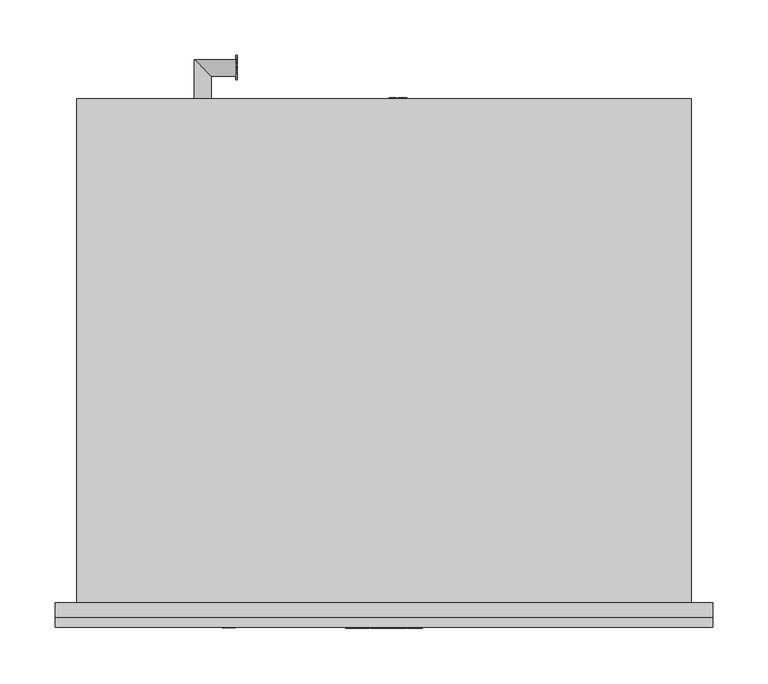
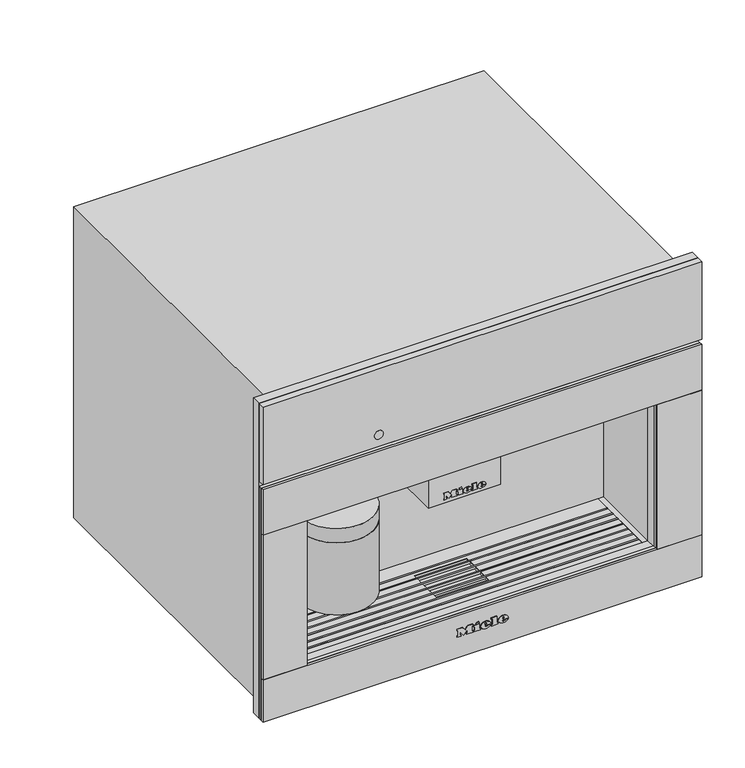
"""IFC4 building model written with IfcOpenShell, lengths in millimetres: proxy geometry, 12384610_CH_CVA7845_OBSWMATT : 29784521_CH_12384610_CVA7845_OBSWMATT."""

from ifc_helpers import new_model, si_unit, point, frame, frame_2d, origin, place, context, project, spatial, polyline, circle_curve, ellipse_curve, trimmed, segment, composite_curve, outline, extrude, faceted_brep, source, transform, mapped, element, save
from ifc_brep_helpers import plane_surface, cylinder_surface, revolved_surface, extruded_surface, advanced_brep


def specialty_equipment_7b8f3ad3(model_context):
    return source(origin(), model_context, "Body", "SolidModel", [
        extrude(outline(composite_curve([segment(trimmed(circle_curve(frame_2d((-14.0, 36.5)), 5.0), [point((-9.0, 36.5))], [point((-19.0, 36.5))], False, "CARTESIAN"), True, "CONTINUOUS"), segment(trimmed(circle_curve(frame_2d((-14.0, 36.5)), 5.0), [point((-19.0, 36.5))], [point((-9.0, 36.5))], False, "CARTESIAN"), True, "CONTINUOUS")], self_intersect=False)), frame((0.0, 0.0, 193.0), z_axis=(0.0, 0.0, 1.0), x_axis=(1.0, 0.0, 0.0)), (0.0, 0.0, 1.0), 5.0),
        extrude(outline(composite_curve([segment(trimmed(circle_curve(frame_2d((14.0, 36.5)), 5.0), [point((19.0, 36.5))], [point((9.0, 36.5))], False, "CARTESIAN"), True, "CONTINUOUS"), segment(trimmed(circle_curve(frame_2d((14.0, 36.5)), 5.0), [point((9.0, 36.5))], [point((19.0, 36.5))], False, "CARTESIAN"), True, "CONTINUOUS")], self_intersect=False)), frame((0.0, 0.0, 193.0), z_axis=(0.0, 0.0, 1.0), x_axis=(1.0, 0.0, 0.0)), (0.0, 0.0, 1.0), 5.0),
        extrude(outline(composite_curve([segment(trimmed(circle_curve(frame_2d((-156.5, 49.5)), 50.0), [point((-106.5, 49.5))], [point((-206.5, 49.5))], False, "CARTESIAN"), True, "CONTINUOUS"), segment(trimmed(circle_curve(frame_2d((-156.5, 49.5)), 50.0), [point((-206.5, 49.5))], [point((-106.5, 49.5))], False, "CARTESIAN"), True, "CONTINUOUS")], self_intersect=False)), frame((0.0, 0.0, 100.0), z_axis=(0.0, 0.0, 1.0), x_axis=(1.0, 0.0, 0.0)), (0.0, 0.0, 1.0), 103.0),
        extrude(outline(polyline([(-49.0, 95.0), (49.0, 95.0), (49.0, 20.0), (-49.0, 20.0), (-49.0, 95.0)])), frame((0.0, 0.0, 198.0), z_axis=(0.0, 0.0, 1.0), x_axis=(1.0, 0.0, 0.0)), (0.0, 0.0, 1.0), 75.0),
        extrude(outline(polyline([(455.5, 297.5), (455.5, -297.5), (4.0, -297.5), (4.0, 297.5), (455.5, 297.5)]), holes=[polyline([(273.0, 237.5), (63.0, 237.5), (63.0, -237.5), (273.0, -237.5), (273.0, 237.5)])]), frame((0.0, -13.0, 0.0), z_axis=(0.0, 1.0, 0.0), x_axis=(0.0, 0.0, 1.0)), (0.0, 0.0, 1.0), 13.0),
        extrude(outline(polyline([(484.5420128, 22.0), (481.8025182, 32.045631), (483.0974628, 32.045631), (484.6867131, 25.4433755), (485.1772224, 23.4053092), (485.7020674, 25.207931), (487.6935352, 32.045631), (489.5599232, 32.045631), (491.0069257, 27.0890343), (492.0835937, 23.4053092), (492.5593878, 25.3845144), (494.1633533, 32.045631), (495.4582979, 32.045631), (492.7163507, 22.0), (491.3748077, 22.0), (488.9664069, 29.7500474), (488.630408, 30.8316204), (488.2527159, 29.5293182), (486.0576866, 22.0), (484.5420128, 22.0)])), frame((-134.0, 0.0, 0.0), z_axis=(1.0, 0.0, 0.0), x_axis=(0.0, 1.0, 0.0)), (0.0, 0.0, 1.0), 1.0),
        extrude(outline(polyline([(473.48348, 22.0), (473.48348, 32.045631), (474.7391839, 32.045631), (474.7391839, 27.128275), (479.8895318, 32.045631), (481.6455552, 32.045631), (477.3217155, 27.9155425), (481.8025182, 22.0), (480.267224, 22.0), (476.4314411, 27.0669613), (474.7391839, 25.4531857), (474.7391839, 22.0), (473.48348, 22.0)])), frame((-134.0, 0.0, 0.0), z_axis=(1.0, 0.0, 0.0), x_axis=(0.0, 1.0, 0.0)), (0.0, 0.0, 1.0), 1.0),
        advanced_brep(
        [(-156.5, 476.5, 27.0), (-171.5, 491.5, 27.0), (-134.0, 491.5, 27.0), (-134.0, 476.5, 27.0), (-156.5, 456.0, 27.0), (-171.5, 456.0, 27.0)],
        [
            (0, 1, ellipse_curve(frame((-164.0, 484.0, 27.0), z_axis=(0.707106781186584, 0.7071067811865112, 0.0), x_axis=(-0.7071067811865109, 0.7071067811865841, 0.0)), 10.6066017, 7.5)),
            (1, 2),
            (2, 3, circle_curve(frame((-134.0, 484.0, 27.0), z_axis=(-1.0, 0.0, 0.0), x_axis=(0.0, 1.0, 0.0)), 7.5)),
            (3, 0),
            (4, 5, circle_curve(frame((-164.0, 456.0, 27.0), z_axis=(0.0, 1.0, 0.0), x_axis=(-1.0, 0.0, 0.0)), 7.5)),
            (5, 1),
            (0, 4),
            (4, 5, circle_curve(frame((-164.0, 456.0, 27.0), z_axis=(0.0, -1.0, 0.0), x_axis=(-1.0, 0.0, 0.0)), 7.5)),
            (0, 1, ellipse_curve(frame((-164.0, 484.0, 27.0), z_axis=(-0.707106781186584, -0.7071067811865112, 0.0), x_axis=(0.7071067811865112, -0.7071067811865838, 0.0)), 10.6066017, 7.5)),
            (2, 3, circle_curve(frame((-134.0, 484.0, 27.0), z_axis=(1.0, 0.0, 0.0), x_axis=(0.0, 1.0, 0.0)), 7.5)),
        ],
        [
            cylinder_surface(frame((-164.0, 484.0, 27.0), z_axis=(-1.0, 0.0, 0.0), x_axis=(0.0, 1.0, 0.0)), 7.5),
            cylinder_surface(frame((-164.0, 456.0, 27.0), z_axis=(0.0, -1.0, 0.0), x_axis=(-1.0, 0.0, 0.0)), 7.5),
            plane_surface(frame((-164.0, 456.0, 27.0), z_axis=(0.0, -1.0, 0.0), x_axis=(0.0, 0.0, 1.0))),
            plane_surface(frame((-134.0, 484.0, 27.0), z_axis=(1.0, 0.0, 0.0), x_axis=(0.0, 0.0, 1.0))),
        ],
        [
            (0, [[1, 2, 3, 4]]),
            (1, [[5, 6, -1, 7]]),
            (2, [[8, -5]]),
            (1, [[-8, -7, 9, -6]]),
            (3, [[-3, 10]]),
            (0, [[-9, -4, -10, -2]]),
        ],
    ),
        extrude(outline(polyline([(97.0, 11.140398), (107.045631, 11.140398), (107.045631, 9.8846941), (98.2557039, 9.8846941), (98.2557039, 4.8618786), (97.0, 4.8618786), (97.0, 11.140398)])), frame((0.0, 456.0, 0.0), z_axis=(0.0, 1.0, 0.0), x_axis=(0.0, 0.0, 1.0)), (0.0, 0.0, 1.0), 1.0),
        extrude(outline(polyline([(97.0, 20.4012141), (107.045631, 20.4012141), (107.045631, 13.1809168), (105.7899271, 13.1809168), (105.7899271, 19.1455102), (102.8076304, 19.1455102), (102.8076304, 13.4948427), (101.5519266, 13.4948427), (101.5519266, 19.1455102), (98.2557039, 19.1455102), (98.2557039, 13.0239538), (97.0, 13.0239538), (97.0, 20.4012141)])), frame((0.0, 456.0, 0.0), z_axis=(0.0, 1.0, 0.0), x_axis=(0.0, 0.0, 1.0)), (0.0, 0.0, 1.0), 1.0),
        advanced_brep(
        [(55.0, 425.5, 102.0), (55.0, 410.5, 102.0), (5.5239538, 410.5, 102.0), (20.5239538, 425.5, 102.0), (20.5239538, 456.0, 102.0), (5.5239538, 456.0, 102.0)],
        [
            (0, 1, circle_curve(frame((55.0, 418.0, 102.0), z_axis=(-1.0, 0.0, 0.0), x_axis=(0.0, -1.0, 0.0)), 7.5)),
            (1, 2),
            (2, 3, ellipse_curve(frame((13.0239538, 418.0, 102.0), z_axis=(0.7071067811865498, -0.7071067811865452, 0.0), x_axis=(0.7071067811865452, 0.7071067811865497, 0.0)), 10.6066017, 7.5)),
            (3, 0),
            (2, 3, ellipse_curve(frame((13.0239538, 418.0, 102.0), z_axis=(-0.7071067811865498, 0.7071067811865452, 0.0), x_axis=(-0.7071067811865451, -0.7071067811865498, 0.0)), 10.6066017, 7.5)),
            (3, 4),
            (4, 5, circle_curve(frame((13.0239538, 456.0, 102.0), z_axis=(0.0, -1.0, 0.0), x_axis=(-1.0, 0.0, 0.0)), 7.5)),
            (5, 2),
            (0, 1, circle_curve(frame((55.0, 418.0, 102.0), z_axis=(1.0, 0.0, 0.0), x_axis=(0.0, -1.0, 0.0)), 7.5)),
            (4, 5, circle_curve(frame((13.0239538, 456.0, 102.0), z_axis=(0.0, 1.0, 0.0), x_axis=(-1.0, 0.0, 0.0)), 7.5)),
        ],
        [
            cylinder_surface(frame((55.0, 418.0, 102.0), z_axis=(1.0, 0.0, 0.0), x_axis=(0.0, -1.0, 0.0)), 7.5),
            cylinder_surface(frame((13.0239538, 418.0, 102.0), z_axis=(0.0, -1.0, 0.0), x_axis=(-1.0, 0.0, 0.0)), 7.5),
            plane_surface(frame((55.0, 418.0, 102.0), z_axis=(1.0, 0.0, 0.0), x_axis=(0.0, 0.0, 1.0))),
            plane_surface(frame((13.0239538, 456.0, 102.0), z_axis=(0.0, 1.0, 0.0), x_axis=(0.0, 0.0, 1.0))),
        ],
        [
            (0, [[1, 2, 3, 4]]),
            (1, [[5, 6, 7, 8]]),
            (2, [[9, -1]]),
            (0, [[-9, -4, -5, -2]]),
            (3, [[10, -7]]),
            (1, [[-3, -8, -10, -6]]),
        ],
    ),
        advanced_brep(
        [(-106.5, 49.5, 203.0), (-206.5, 49.5, 203.0), (-156.5, 49.5, 203.0), (-106.5, 49.5, 223.5), (-206.5, 49.5, 223.5), (-110.0, 49.5, 252.0), (-203.0, 49.5, 252.0), (-110.0, 49.5, 273.0), (-203.0, 49.5, 273.0), (-156.5, 49.5, 273.0)],
        [
            (0, 1, circle_curve(frame((-156.5, 49.5, 203.0), z_axis=(0.0, 0.0, -1.0), x_axis=(-1.0, 0.0, 0.0)), 50.0)),
            (1, 2),
            (2, 0),
            (1, 0, circle_curve(frame((-156.5, 49.5, 203.0), z_axis=(0.0, 0.0, -1.0), x_axis=(-1.0, 0.0, 0.0)), 50.0)),
            (3, 4, circle_curve(frame((-156.5, 49.5, 223.5), z_axis=(0.0, 0.0, -1.0), x_axis=(-1.0, 0.0, 0.0)), 50.0)),
            (4, 1),
            (0, 3),
            (4, 3, circle_curve(frame((-156.5, 49.5, 223.5), z_axis=(0.0, 0.0, -1.0), x_axis=(-1.0, 0.0, 0.0)), 50.0)),
            (5, 6, circle_curve(frame((-156.5, 49.5, 252.0), z_axis=(0.0, 0.0, -1.0), x_axis=(-1.0, 0.0, 0.0)), 46.5)),
            (6, 4, circle_curve(frame((-206.7961166, 49.5, 238.0012775), z_axis=(0.0, 1.0, 0.0), x_axis=(-1.0, 0.0, 0.0)), 14.5043005)),
            (3, 5, circle_curve(frame((-106.2038834, 49.5, 238.0012775), z_axis=(0.0, 1.0, 0.0), x_axis=(1.0, 0.0, 0.0)), 14.5043005)),
            (6, 5, circle_curve(frame((-156.5, 49.5, 252.0), z_axis=(0.0, 0.0, -1.0), x_axis=(-1.0, 0.0, 0.0)), 46.5)),
            (7, 8, circle_curve(frame((-156.5, 49.5, 273.0), z_axis=(0.0, 0.0, -1.0), x_axis=(-1.0, 0.0, 0.0)), 46.5)),
            (8, 6),
            (5, 7),
            (8, 7, circle_curve(frame((-156.5, 49.5, 273.0), z_axis=(0.0, 0.0, -1.0), x_axis=(-1.0, 0.0, 0.0)), 46.5)),
            (9, 8),
            (7, 9),
        ],
        [
            plane_surface(frame((-156.5, 49.5, 203.0), z_axis=(0.0, 0.0, -1.0), x_axis=(-1.0, 0.0, 0.0))),
            cylinder_surface(frame((-156.5, 49.5, 388.7361736), z_axis=(0.0, 0.0, 1.0), x_axis=(-1.0, 0.0, 0.0)), 50.0),
            revolved_surface(trimmed(ellipse_curve(frame((-206.7961166, 49.5, 238.0012775), z_axis=(0.0, -1.0, 0.0), x_axis=(-1.0, 0.0, 0.0)), 14.5043005, 14.5043005), [point((-206.5, 49.5, 223.5))], [point((-203.0, 49.5, 252.0))], True, "CARTESIAN"), (-156.5, 49.5, 388.7361736), (0.0, 0.0, 1.0)),
            cylinder_surface(frame((-156.5, 49.5, 388.7361736), z_axis=(0.0, 0.0, 1.0), x_axis=(-1.0, 0.0, 0.0)), 46.5),
            plane_surface(frame((-156.5, 49.5, 273.0), z_axis=(0.0, 0.0, 1.0), x_axis=(-1.0, 0.0, 0.0))),
        ],
        [
            (0, [[1, 2, 3]]),
            (0, [[4, -3, -2]]),
            (1, [[5, 6, -1, 7]]),
            (1, [[8, -7, -4, -6]]),
            (2, [[9, 10, -5, 11]]),
            (2, [[12, -11, -8, -10]]),
            (3, [[13, 14, -9, 15]]),
            (3, [[16, -15, -12, -14]]),
            (4, [[17, -13, 18]]),
            (4, [[-18, -16, -17]]),
        ],
    ),
        faceted_brep([(229.5, 0.0, 62.0), (-229.5, 0.0, 62.0), (-229.5, 8.0, 62.0), (229.5, 8.0, 62.0), (-229.5, 104.5, 62.0), (229.5, 104.5, 62.0), (229.5, 82.0925571, 62.0), (-229.5, 82.0925571, 62.0), (36.0, 76.0, 62.0), (-36.0, 76.0, 62.0), (-36.0, 70.0550731, 62.0), (-229.5, 70.0550731, 62.0), (-229.5, 80.0925571, 62.0), (229.5, 80.0925571, 62.0), (229.5, 70.0550731, 62.0), (36.0, 70.0550731, 62.0), (-36.0, 25.0, 62.0), (36.0, 25.0, 62.0), (36.0, 31.9426212, 62.0), (229.5, 31.9426212, 62.0), (229.5, 21.9776522, 62.0), (-229.5, 21.9776522, 62.0), (-229.5, 31.9426212, 62.0), (-36.0, 31.9426212, 62.0), (229.5, 19.9776522, 62.0), (229.5, 10.0, 62.0), (-229.5, 10.0, 62.0), (-229.5, 19.9776522, 62.0), (229.5, 43.9801052, 62.0), (229.5, 33.9426212, 62.0), (36.0, 33.9426212, 62.0), (36.0, 43.9801052, 62.0), (229.5, 56.0175891, 62.0), (229.5, 45.9801052, 62.0), (36.0, 45.9801052, 62.0), (36.0, 56.0175891, 62.0), (229.5, 68.0550731, 62.0), (229.5, 58.0175891, 62.0), (36.0, 58.0175891, 62.0), (36.0, 68.0550731, 62.0), (-229.5, 33.9426212, 62.0), (-229.5, 43.9801052, 62.0), (-36.0, 43.9801052, 62.0), (-36.0, 33.9426212, 62.0), (-229.5, 45.9801052, 62.0), (-229.5, 56.0175891, 62.0), (-36.0, 56.0175891, 62.0), (-36.0, 45.9801052, 62.0), (-229.5, 58.0175891, 62.0), (-229.5, 68.0550731, 62.0), (-36.0, 68.0550731, 62.0), (-36.0, 58.0175891, 62.0), (229.5, 104.5, 63.0), (-229.5, 104.5, 63.0), (-229.5, 82.0925571, 63.0), (229.5, 82.0925571, 63.0), (-229.5, 0.0, 63.0), (229.5, 0.0, 63.0), (229.5, 8.0, 63.0), (-229.5, 8.0, 63.0), (-36.0, 76.0, 63.0), (36.0, 76.0, 63.0), (36.0, 70.0550731, 63.0), (229.5, 70.0550731, 63.0), (229.5, 80.0925571, 63.0), (-229.5, 80.0925571, 63.0), (-229.5, 70.0550731, 63.0), (-36.0, 70.0550731, 63.0), (36.0, 25.0, 63.0), (-36.0, 25.0, 63.0), (-36.0, 31.9426212, 63.0), (-229.5, 31.9426212, 63.0), (-229.5, 21.9776522, 63.0), (229.5, 21.9776522, 63.0), (229.5, 31.9426212, 63.0), (36.0, 31.9426212, 63.0), (-229.5, 19.9776522, 63.0), (-229.5, 10.0, 63.0), (229.5, 10.0, 63.0), (229.5, 19.9776522, 63.0), (-229.5, 43.9801052, 63.0), (-229.5, 33.9426212, 63.0), (-36.0, 33.9426212, 63.0), (-36.0, 43.9801052, 63.0), (-229.5, 56.0175891, 63.0), (-229.5, 45.9801052, 63.0), (-36.0, 45.9801052, 63.0), (-36.0, 56.0175891, 63.0), (-229.5, 68.0550731, 63.0), (-229.5, 58.0175891, 63.0), (-36.0, 58.0175891, 63.0), (-36.0, 68.0550731, 63.0), (229.5, 33.9426212, 63.0), (229.5, 43.9801052, 63.0), (36.0, 43.9801052, 63.0), (36.0, 33.9426212, 63.0), (229.5, 45.9801052, 63.0), (229.5, 56.0175891, 63.0), (36.0, 56.0175891, 63.0), (36.0, 45.9801052, 63.0), (229.5, 58.0175891, 63.0), (229.5, 68.0550731, 63.0), (36.0, 68.0550731, 63.0), (36.0, 58.0175891, 63.0), (-229.5, 82.0925571, 60.0), (-229.5, 80.0925571, 60.0), (-229.5, 70.0550731, 60.0), (-229.5, 68.0550731, 60.0), (-229.5, 58.0175891, 60.0), (-229.5, 56.0175891, 60.0), (-229.5, 45.9801052, 60.0), (-229.5, 43.9801052, 60.0), (-229.5, 33.9426212, 60.0), (-229.5, 31.9426212, 60.0), (-229.5, 21.9776522, 60.0), (-229.5, 19.9776522, 60.0), (-229.5, 10.0, 60.0), (-229.5, 8.0, 60.0), (-229.5, 8.0, 63.5), (-229.5, 10.0, 63.5), (-229.5, 19.9776522, 63.5), (-229.5, 21.9776522, 63.5), (-229.5, 31.9426212, 63.5), (-229.5, 33.9426212, 63.5), (-229.5, 43.9801052, 63.5), (-229.5, 45.9801052, 63.5), (-229.5, 56.0175891, 63.5), (-229.5, 58.0175891, 63.5), (-229.5, 68.0550731, 63.5), (-229.5, 70.0550731, 63.5), (-229.5, 80.0925571, 63.5), (-229.5, 82.0925571, 63.5), (229.5, 82.0925571, 63.5), (229.5, 80.0925571, 63.5), (229.5, 70.0550731, 63.5), (229.5, 68.0550731, 63.5), (229.5, 58.0175891, 63.5), (229.5, 56.0175891, 63.5), (229.5, 45.9801052, 63.5), (229.5, 43.9801052, 63.5), (229.5, 33.9426212, 63.5), (229.5, 31.9426212, 63.5), (229.5, 21.9776522, 63.5), (229.5, 19.9776522, 63.5), (229.5, 10.0, 63.5), (229.5, 8.0, 63.5), (229.5, 8.0, 60.0), (229.5, 10.0, 60.0), (229.5, 19.9776522, 60.0), (229.5, 21.9776522, 60.0), (229.5, 31.9426212, 60.0), (229.5, 33.9426212, 60.0), (229.5, 43.9801052, 60.0), (229.5, 45.9801052, 60.0), (229.5, 56.0175891, 60.0), (229.5, 58.0175891, 60.0), (229.5, 68.0550731, 60.0), (229.5, 70.0550731, 60.0), (229.5, 80.0925571, 60.0), (229.5, 82.0925571, 60.0)], [[[0, 1, 2, 3]], [[4, 5, 6, 7]], [[8, 9, 10, 11, 12, 13, 14, 15]], [[16, 17, 18, 19, 20, 21, 22, 23]], [[24, 25, 26, 27]], [[28, 29, 30, 31]], [[32, 33, 34, 35]], [[36, 37, 38, 39]], [[40, 41, 42, 43]], [[44, 45, 46, 47]], [[48, 49, 50, 51]], [[52, 53, 54, 55]], [[56, 57, 58, 59]], [[60, 61, 62, 63, 64, 65, 66, 67]], [[68, 69, 70, 71, 72, 73, 74, 75]], [[76, 77, 78, 79]], [[80, 81, 82, 83]], [[84, 85, 86, 87]], [[88, 89, 90, 91]], [[92, 93, 94, 95]], [[96, 97, 98, 99]], [[100, 101, 102, 103]], [[5, 4, 53, 52]], [[53, 4, 7, 104, 105, 12, 11, 106, 107, 49, 48, 108, 109, 45, 44, 110, 111, 41, 40, 112, 113, 22, 21, 114, 115, 27, 26, 116, 117, 2, 1, 56, 59, 118, 119, 77, 76, 120, 121, 72, 71, 122, 123, 81, 80, 124, 125, 85, 84, 126, 127, 89, 88, 128, 129, 66, 65, 130, 131, 54]], [[1, 0, 57, 56]], [[5, 52, 55, 132, 133, 64, 63, 134, 135, 101, 100, 136, 137, 97, 96, 138, 139, 93, 92, 140, 141, 74, 73, 142, 143, 79, 78, 144, 145, 58, 57, 0, 3, 146, 147, 25, 24, 148, 149, 20, 19, 150, 151, 29, 28, 152, 153, 33, 32, 154, 155, 37, 36, 156, 157, 14, 13, 158, 159, 6]], [[8, 61, 60, 9]], [[43, 42, 83, 82]], [[47, 46, 87, 86]], [[51, 50, 91, 90]], [[9, 60, 67, 10]], [[69, 16, 23, 70]], [[16, 69, 68, 17]], [[31, 30, 95, 94]], [[35, 34, 99, 98]], [[39, 38, 103, 102]], [[61, 8, 15, 62]], [[17, 68, 75, 18]], [[147, 146, 117, 116]], [[149, 148, 115, 114]], [[151, 150, 113, 112]], [[153, 152, 111, 110]], [[155, 154, 109, 108]], [[157, 156, 107, 106]], [[159, 158, 105, 104]], [[144, 119, 118, 145]], [[142, 121, 120, 143]], [[140, 123, 122, 141]], [[138, 125, 124, 139]], [[136, 127, 126, 137]], [[134, 129, 128, 135]], [[132, 131, 130, 133]], [[147, 116, 26, 25]], [[119, 144, 78, 77]], [[117, 146, 3, 2]], [[145, 118, 59, 58]], [[149, 114, 21, 20]], [[121, 142, 73, 72]], [[115, 148, 24, 27]], [[143, 120, 76, 79]], [[151, 112, 40, 43, 82, 81, 123, 140, 92, 95, 30, 29]], [[113, 150, 19, 18, 75, 74, 141, 122, 71, 70, 23, 22]], [[153, 110, 44, 47, 86, 85, 125, 138, 96, 99, 34, 33]], [[111, 152, 28, 31, 94, 93, 139, 124, 80, 83, 42, 41]], [[155, 108, 48, 51, 90, 89, 127, 136, 100, 103, 38, 37]], [[109, 154, 32, 35, 98, 97, 137, 126, 84, 87, 46, 45]], [[157, 106, 11, 10, 67, 66, 129, 134, 63, 62, 15, 14]], [[107, 156, 36, 39, 102, 101, 135, 128, 88, 91, 50, 49]], [[159, 104, 7, 6]], [[131, 132, 55, 54]], [[105, 158, 13, 12]], [[133, 130, 65, 64]]]),
        faceted_brep([(-278.0, 456.0, 0.0), (-278.0, 0.0, 0.0), (-278.0, 0.0, 446.0), (-278.0, 456.0, 446.0), (278.0, 456.0, 0.0), (278.0, 456.0, 446.0), (278.0, 0.0, 446.0), (278.0, 0.0, 0.0), (55.0, 456.0, 133.0), (-22.0, 456.0, 133.0), (-22.0, 456.0, 89.0), (35.0, 456.0, 66.0), (55.0, 456.0, 66.0), (237.5, 0.0, 273.0), (237.5, 0.0, 63.0), (229.5, 0.0, 63.0), (229.5, 0.0, 62.0), (-229.5, 0.0, 62.0), (-229.5, 0.0, 63.0), (-237.5, 0.0, 63.0), (-237.5, 0.0, 273.0), (237.5, 104.5, 273.0), (-237.5, 104.5, 273.0), (-237.5, 104.5, 63.0), (-229.5, 104.5, 63.0), (-229.5, 104.5, 62.0), (229.5, 104.5, 62.0), (229.5, 104.5, 63.0), (237.5, 104.5, 63.0), (-36.0, 76.0, 62.0), (36.0, 76.0, 62.0), (36.0, 25.0, 62.0), (-36.0, 25.0, 62.0), (36.0, 76.0, 58.0), (-36.0, 76.0, 58.0), (-36.0, 25.0, 58.0), (36.0, 25.0, 58.0), (-22.0, 400.0, 133.0), (55.0, 400.0, 133.0), (55.0, 400.0, 66.0), (35.0, 400.0, 66.0), (-22.0, 400.0, 89.0)], [[[0, 1, 2, 3]], [[4, 5, 6, 7]], [[0, 3, 5, 4], [8, 9, 10, 11, 12]], [[3, 2, 6, 5]], [[2, 1, 7, 6], [13, 14, 15, 16, 17, 18, 19, 20]], [[1, 0, 4, 7]], [[21, 22, 23, 24, 25, 26, 27, 28]], [[21, 28, 14, 13]], [[14, 28, 27, 15]], [[23, 19, 18, 24]], [[23, 22, 20, 19]], [[22, 21, 13, 20]], [[26, 25, 17, 16], [29, 30, 31, 32]], [[17, 25, 24, 18]], [[26, 16, 15, 27]], [[33, 34, 35, 36]], [[34, 33, 30, 29]], [[35, 34, 29, 32]], [[36, 35, 32, 31]], [[33, 36, 31, 30]], [[37, 38, 39, 40, 41]], [[38, 37, 9, 8]], [[39, 38, 8, 12]], [[40, 39, 12, 11]], [[41, 40, 11, 10]], [[37, 41, 10, 9]]]),
        advanced_brep(
        [(27.088, -23.0, 36.7018), (27.088, -23.0, 37.8532), (34.7146, -23.0, 37.8532), (21.445, -23.0, 37.8532), (24.58, -23.0, 34.0), (34.5208, -23.0, 36.7018), (31.078, -23.0, 36.7018), (28.3648, -23.0, 35.425), (27.088, -23.0, 39.3124), (27.088, -23.0, 40.555), (29.0374, -23.0, 40.555), (29.0374, -23.0, 39.3124), (27.088, -22.0, 36.7018), (28.3648, -22.0, 35.425), (31.078, -22.0, 36.7018), (34.5208, -22.0, 36.7018), (24.58, -22.0, 34.0), (21.445, -22.0, 37.8532), (34.7146, -22.0, 37.8532), (27.088, -22.0, 37.8532), (27.088, -22.0, 39.3124), (29.0374, -22.0, 39.3124), (29.0374, -22.0, 40.555), (27.088, -22.0, 40.555)],
        [
            (0, 1),
            (1, 2),
            (2, 3, ellipse_curve(frame((28.0798, -23.0, 37.8532), z_axis=(0.0, -1.0, 0.0), x_axis=(-1.0, 0.0, 0.0)), 6.6348, 5.4834)),
            (3, 4, circle_curve(frame((25.8568622, -23.0, 38.2408), z_axis=(0.0, -1.0, 0.0), x_axis=(0.0, 0.0, -1.0)), 4.4288556)),
            (4, 5, circle_curve(frame((27.9469808, -23.0, 41.2504), z_axis=(0.0, -1.0, 0.0), x_axis=(0.0, 0.0, -1.0)), 7.9940516)),
            (5, 6),
            (6, 7, circle_curve(frame((28.9220588, -23.0, 37.762), z_axis=(0.0, 1.0, 0.0), x_axis=(0.0, 0.0, -1.0)), 2.4025208)),
            (7, 0, circle_curve(frame((28.3648, -23.0, 36.7018), z_axis=(0.0, 1.0, 0.0), x_axis=(0.0, 0.0, -1.0)), 1.2768)),
            (8, 9),
            (9, 10, circle_curve(frame((28.0627, -23.0, 40.555), z_axis=(0.0, 1.0, 0.0), x_axis=(0.0, 0.0, -1.0)), 0.9747)),
            (10, 11),
            (11, 8),
            (12, 13, circle_curve(frame((28.3648, -22.0, 36.7018), z_axis=(0.0, -1.0, 0.0), x_axis=(0.0, 0.0, -1.0)), 1.2768)),
            (13, 14, circle_curve(frame((28.9220588, -22.0, 37.762), z_axis=(0.0, -1.0, 0.0), x_axis=(0.0, 0.0, -1.0)), 2.4025208)),
            (14, 15),
            (15, 16, circle_curve(frame((27.9469808, -22.0, 41.2504), z_axis=(0.0, 1.0, 0.0), x_axis=(0.0, 0.0, -1.0)), 7.9940516)),
            (16, 17, circle_curve(frame((25.8568622, -22.0, 38.2408), z_axis=(0.0, 1.0, 0.0), x_axis=(0.0, 0.0, -1.0)), 4.4288556)),
            (17, 18, ellipse_curve(frame((28.0798, -22.0, 37.8532), z_axis=(0.0, 1.0, 0.0), x_axis=(-1.0, 0.0, 0.0)), 6.6348, 5.4834)),
            (18, 19),
            (19, 12),
            (20, 21),
            (21, 22),
            (22, 23, circle_curve(frame((28.0627, -22.0, 40.555), z_axis=(0.0, -1.0, 0.0), x_axis=(0.0, 0.0, -1.0)), 0.9747)),
            (23, 20),
            (0, 12),
            (19, 1),
            (18, 2),
            (5, 15),
            (14, 6),
            (17, 3),
            (13, 7),
            (16, 4),
            (8, 20),
            (23, 9),
            (22, 10),
            (21, 11),
        ],
        [
            plane_surface(frame((27.088, -23.0, 37.8532), z_axis=(0.0, -1.0, 0.0), x_axis=(0.0, 0.0, 1.0))),
            plane_surface(frame((27.088, -22.0, 37.8532), z_axis=(0.0, 1.0, 0.0), x_axis=(0.0, 0.0, -1.0))),
            plane_surface(frame((27.088, -23.0, 36.7018), z_axis=(1.0, 0.0, 0.0), x_axis=(0.0, 1.0, 0.0))),
            plane_surface(frame((27.088, -23.0, 37.8532), z_axis=(0.0, 0.0, -1.0), x_axis=(0.0, 1.0, 0.0))),
            plane_surface(frame((34.5208, -23.0, 36.7018), z_axis=(0.0, 0.0, 1.0), x_axis=(0.0, 1.0, 0.0))),
            extruded_surface(trimmed(ellipse_curve(frame((28.0798, -21.0, 37.8532), z_axis=(0.0, -1.0, 0.0), x_axis=(-1.0, 0.0, 0.0)), 6.6348, 5.4834), [point((34.7146, -21.0, 37.8532))], [point((21.445, -21.0, 37.8532))], True, "CARTESIAN"), (0.0, -1.0, 0.0), 1.0),
            revolved_surface(polyline([(28.9220588, -22.0, 35.3594792), (28.9220588, -23.0, 35.3594792)]), (28.9220588, -22.0, 37.762), (0.0, 1.0, 0.0)),
            revolved_surface(polyline([(28.3648, -22.0, 35.425), (28.3648, -23.0, 35.425)]), (28.3648, -22.0, 36.7018), (0.0, 1.0, 0.0)),
            cylinder_surface(frame((25.8568622, -22.0, 38.2408), z_axis=(0.0, -1.0, 0.0), x_axis=(0.0, 0.0, -1.0)), 4.4288556),
            cylinder_surface(frame((27.9469808, -22.0, 41.2504), z_axis=(0.0, -1.0, 0.0), x_axis=(0.0, 0.0, -1.0)), 7.9940516),
            plane_surface(frame((27.088, -23.0, 39.3124), z_axis=(1.0, 0.0, 0.0), x_axis=(0.0, 1.0, 0.0))),
            revolved_surface(polyline([(28.0627, -22.0, 39.5803), (28.0627, -23.0, 39.5803)]), (28.0627, -22.0, 40.555), (0.0, 1.0, 0.0)),
            plane_surface(frame((29.0374, -23.0, 40.555), z_axis=(-1.0, 0.0, 0.0), x_axis=(0.0, 1.0, 0.0))),
            plane_surface(frame((29.0374, -23.0, 39.3124), z_axis=(0.0, 0.0, 1.0), x_axis=(0.0, 1.0, 0.0))),
        ],
        [
            (0, [[1, 2, 3, 4, 5, 6, 7, 8], [9, 10, 11, 12]]),
            (1, [[13, 14, 15, 16, 17, 18, 19, 20], [21, 22, 23, 24]]),
            (2, [[-1, 25, -20, 26]]),
            (3, [[-2, -26, -19, 27]]),
            (4, [[-6, 28, -15, 29]]),
            (5, [[-3, -27, -18, 30]]),
            (6, [[-7, -29, -14, 31]]),
            (7, [[-8, -31, -13, -25]]),
            (8, [[-4, -30, -17, 32]]),
            (9, [[-5, -32, -16, -28]]),
            (10, [[-9, 33, -24, 34]]),
            (11, [[-10, -34, -23, 35]]),
            (12, [[-11, -35, -22, 36]]),
            (13, [[-12, -36, -21, -33]]),
        ],
    ),
        advanced_brep(
        [(3.2962, -23.0, 36.7018), (3.2962, -23.0, 37.8532), (10.9228, -23.0, 37.8532), (-2.3468, -23.0, 37.8532), (0.7882, -23.0, 34.0), (10.729, -23.0, 36.7018), (7.2862, -23.0, 36.7018), (4.573, -23.0, 35.425), (3.2962, -23.0, 39.3124), (3.2962, -23.0, 40.555), (5.2456, -23.0, 40.555), (5.2456, -23.0, 39.3124), (3.2962, -22.0, 36.7018), (4.573, -22.0, 35.425), (7.2862, -22.0, 36.7018), (10.729, -22.0, 36.7018), (0.7882, -22.0, 34.0), (-2.3468, -22.0, 37.8532), (10.9228, -22.0, 37.8532), (3.2962, -22.0, 37.8532), (3.2962, -22.0, 39.3124), (5.2456, -22.0, 39.3124), (5.2456, -22.0, 40.555), (3.2962, -22.0, 40.555)],
        [
            (0, 1),
            (1, 2),
            (2, 3, ellipse_curve(frame((4.288, -23.0, 37.8532), z_axis=(0.0, -1.0, 0.0), x_axis=(-1.0, 0.0, 0.0)), 6.6348, 5.4834)),
            (3, 4, circle_curve(frame((2.0650622, -23.0, 38.2408), z_axis=(0.0, -1.0, 0.0), x_axis=(0.0, 0.0, -1.0)), 4.4288556)),
            (4, 5, circle_curve(frame((4.1551808, -23.0, 41.2504), z_axis=(0.0, -1.0, 0.0), x_axis=(0.0, 0.0, -1.0)), 7.9940516)),
            (5, 6),
            (6, 7, circle_curve(frame((5.1302588, -23.0, 37.762), z_axis=(0.0, 1.0, 0.0), x_axis=(0.0, 0.0, -1.0)), 2.4025208)),
            (7, 0, circle_curve(frame((4.573, -23.0, 36.7018), z_axis=(0.0, 1.0, 0.0), x_axis=(0.0, 0.0, -1.0)), 1.2768)),
            (8, 9),
            (9, 10, circle_curve(frame((4.2709, -23.0, 40.555), z_axis=(0.0, 1.0, 0.0), x_axis=(0.0, 0.0, -1.0)), 0.9747)),
            (10, 11),
            (11, 8),
            (12, 13, circle_curve(frame((4.573, -22.0, 36.7018), z_axis=(0.0, -1.0, 0.0), x_axis=(0.0, 0.0, -1.0)), 1.2768)),
            (13, 14, circle_curve(frame((5.1302588, -22.0, 37.762), z_axis=(0.0, -1.0, 0.0), x_axis=(0.0, 0.0, -1.0)), 2.4025208)),
            (14, 15),
            (15, 16, circle_curve(frame((4.1551808, -22.0, 41.2504), z_axis=(0.0, 1.0, 0.0), x_axis=(0.0, 0.0, -1.0)), 7.9940516)),
            (16, 17, circle_curve(frame((2.0650622, -22.0, 38.2408), z_axis=(0.0, 1.0, 0.0), x_axis=(0.0, 0.0, -1.0)), 4.4288556)),
            (17, 18, ellipse_curve(frame((4.288, -22.0, 37.8532), z_axis=(0.0, 1.0, 0.0), x_axis=(-1.0, 0.0, 0.0)), 6.6348, 5.4834)),
            (18, 19),
            (19, 12),
            (20, 21),
            (21, 22),
            (22, 23, circle_curve(frame((4.2709, -22.0, 40.555), z_axis=(0.0, -1.0, 0.0), x_axis=(0.0, 0.0, -1.0)), 0.9747)),
            (23, 20),
            (0, 12),
            (19, 1),
            (18, 2),
            (5, 15),
            (14, 6),
            (17, 3),
            (13, 7),
            (16, 4),
            (8, 20),
            (23, 9),
            (22, 10),
            (21, 11),
        ],
        [
            plane_surface(frame((3.2962, -23.0, 37.8532), z_axis=(0.0, -1.0, 0.0), x_axis=(0.0, 0.0, 1.0))),
            plane_surface(frame((3.2962, -22.0, 37.8532), z_axis=(0.0, 1.0, 0.0), x_axis=(0.0, 0.0, -1.0))),
            plane_surface(frame((3.2962, -23.0, 36.7018), z_axis=(1.0, 0.0, 0.0), x_axis=(0.0, 1.0, 0.0))),
            plane_surface(frame((3.2962, -23.0, 37.8532), z_axis=(0.0, 0.0, -1.0), x_axis=(0.0, 1.0, 0.0))),
            plane_surface(frame((10.729, -23.0, 36.7018), z_axis=(0.0, 0.0, 1.0), x_axis=(0.0, 1.0, 0.0))),
            extruded_surface(trimmed(ellipse_curve(frame((4.288, -21.0, 37.8532), z_axis=(0.0, -1.0, 0.0), x_axis=(-1.0, 0.0, 0.0)), 6.6348, 5.4834), [point((10.9228, -21.0, 37.8532))], [point((-2.3468, -21.0, 37.8532))], True, "CARTESIAN"), (0.0, -1.0, 0.0), 1.0),
            revolved_surface(polyline([(5.1302588, -22.0, 35.3594792), (5.1302588, -23.0, 35.3594792)]), (5.1302588, -22.0, 37.762), (0.0, 1.0, 0.0)),
            revolved_surface(polyline([(4.573, -22.0, 35.425), (4.573, -23.0, 35.425)]), (4.573, -22.0, 36.7018), (0.0, 1.0, 0.0)),
            cylinder_surface(frame((2.0650622, -22.0, 38.2408), z_axis=(0.0, -1.0, 0.0), x_axis=(0.0, 0.0, -1.0)), 4.4288556),
            cylinder_surface(frame((4.1551808, -22.0, 41.2504), z_axis=(0.0, -1.0, 0.0), x_axis=(0.0, 0.0, -1.0)), 7.9940516),
            plane_surface(frame((3.2962, -23.0, 39.3124), z_axis=(1.0, 0.0, 0.0), x_axis=(0.0, 1.0, 0.0))),
            revolved_surface(polyline([(4.2709, -22.0, 39.5803), (4.2709, -23.0, 39.5803)]), (4.2709, -22.0, 40.555), (0.0, 1.0, 0.0)),
            plane_surface(frame((5.2456, -23.0, 40.555), z_axis=(-1.0, 0.0, 0.0), x_axis=(0.0, 1.0, 0.0))),
            plane_surface(frame((5.2456, -23.0, 39.3124), z_axis=(0.0, 0.0, 1.0), x_axis=(0.0, 1.0, 0.0))),
        ],
        [
            (0, [[1, 2, 3, 4, 5, 6, 7, 8], [9, 10, 11, 12]]),
            (1, [[13, 14, 15, 16, 17, 18, 19, 20], [21, 22, 23, 24]]),
            (2, [[-1, 25, -20, 26]]),
            (3, [[-2, -26, -19, 27]]),
            (4, [[-6, 28, -15, 29]]),
            (5, [[-3, -27, -18, 30]]),
            (6, [[-7, -29, -14, 31]]),
            (7, [[-8, -31, -13, -25]]),
            (8, [[-4, -30, -17, 32]]),
            (9, [[-5, -32, -16, -28]]),
            (10, [[-9, 33, -24, 34]]),
            (11, [[-10, -34, -23, 35]]),
            (12, [[-11, -35, -22, 36]]),
            (13, [[-12, -36, -21, -33]]),
        ],
    ),
        extrude(outline(polyline([(44.7274, -9.164), (42.8806, -8.2976), (44.6818, -4.433), (46.5286, -5.288), (44.7274, -9.164)])), frame((0.0, -23.0, 0.0), z_axis=(0.0, 1.0, 0.0), x_axis=(0.0, 0.0, 1.0)), (0.0, 0.0, 1.0), 1.0),
        extrude(outline(polyline([(42.6298, -11.9798), (40.5892, -11.9798), (40.5892, -10.6232), (35.9152, -10.6232), (35.9152, -11.9798), (34.0, -11.9798), (34.0, -2.9852), (35.9152, -2.9852), (35.9152, -4.3076), (42.6298, -4.3076), (42.6298, -11.9798)])), frame((0.0, -23.0, 0.0), z_axis=(0.0, 1.0, 0.0), x_axis=(0.0, 0.0, 1.0)), (0.0, 0.0, 1.0), 1.0),
        extrude(outline(polyline([(43.5418, 11.5612), (43.5418, 12.9292), (35.9152, 12.9292), (35.9152, 11.5612), (34.0, 11.5612), (34.0, 20.8066), (35.9152, 20.8066), (35.9152, 19.4044), (45.4, 19.4044), (45.4, 11.5612), (43.5418, 11.5612)])), frame((0.0, -23.0, 0.0), z_axis=(0.0, 1.0, 0.0), x_axis=(0.0, 0.0, 1.0)), (0.0, 0.0, 1.0), 1.0),
        extrude(outline(polyline([(43.5418, -34.7), (43.5418, -33.3206), (35.9152, -33.3206), (35.9152, -34.7), (34.0, -34.7), (34.0, -29.684), (35.9152, -29.684), (35.9152, -31.052), (40.7429247, -31.052), (34.0, -25.9562), (40.9402223, -20.8376), (35.9152, -20.8376), (35.9152, -22.2398), (34.0, -22.2398), (34.0, -13.1426), (35.9152, -13.1426), (35.9152, -14.5904), (43.5418, -14.5904), (43.5418, -13.1426), (45.4, -13.1426), (45.4, -20.0852), (41.125, -23.414), (45.4, -26.7542), (45.4, -34.7), (43.5418, -34.7)])), frame((0.0, -23.0, 0.0), z_axis=(0.0, 1.0, 0.0), x_axis=(0.0, 0.0, 1.0)), (0.0, 0.0, 1.0), 1.0),
        advanced_brep(
        [(22.348, 19.0, 205.5278), (22.348, 19.0, 206.4772), (28.6366, 19.0, 206.4772), (17.695, 19.0, 206.4772), (20.28, 19.0, 203.3), (28.4768, 19.0, 205.5278), (25.638, 19.0, 205.5278), (23.4008, 19.0, 204.475), (22.348, 19.0, 207.6804), (22.348, 19.0, 208.705), (23.9554, 19.0, 208.705), (23.9554, 19.0, 207.6804), (22.348, 20.0, 205.5278), (23.4008, 20.0, 204.475), (25.638, 20.0, 205.5278), (28.4768, 20.0, 205.5278), (20.28, 20.0, 203.3), (17.695, 20.0, 206.4772), (28.6366, 20.0, 206.4772), (22.348, 20.0, 206.4772), (22.348, 20.0, 207.6804), (23.9554, 20.0, 207.6804), (23.9554, 20.0, 208.705), (22.348, 20.0, 208.705)],
        [
            (0, 1),
            (1, 2),
            (2, 3, ellipse_curve(frame((23.1658, 19.0, 206.4772), z_axis=(0.0, -1.0, 0.0), x_axis=(-1.0, 0.0, 0.0)), 5.4708, 4.5214)),
            (3, 4, circle_curve(frame((21.3328513, 19.0, 206.7968), z_axis=(0.0, -1.0, 0.0), x_axis=(0.0, 0.0, -1.0)), 3.6518634)),
            (4, 5, circle_curve(frame((23.0562825, 19.0, 209.2784), z_axis=(0.0, -1.0, 0.0), x_axis=(0.0, 0.0, -1.0)), 6.5915864)),
            (5, 6),
            (6, 7, circle_curve(frame((23.8602941, 19.0, 206.402), z_axis=(0.0, 1.0, 0.0), x_axis=(0.0, 0.0, -1.0)), 1.981026)),
            (7, 0, circle_curve(frame((23.4008, 19.0, 205.5278), z_axis=(0.0, 1.0, 0.0), x_axis=(0.0, 0.0, -1.0)), 1.0528)),
            (8, 9),
            (9, 10, circle_curve(frame((23.1517, 19.0, 208.705), z_axis=(0.0, 1.0, 0.0), x_axis=(0.0, 0.0, -1.0)), 0.8037)),
            (10, 11),
            (11, 8),
            (12, 13, circle_curve(frame((23.4008, 20.0, 205.5278), z_axis=(0.0, -1.0, 0.0), x_axis=(0.0, 0.0, -1.0)), 1.0528)),
            (13, 14, circle_curve(frame((23.8602941, 20.0, 206.402), z_axis=(0.0, -1.0, 0.0), x_axis=(0.0, 0.0, -1.0)), 1.981026)),
            (14, 15),
            (15, 16, circle_curve(frame((23.0562825, 20.0, 209.2784), z_axis=(0.0, 1.0, 0.0), x_axis=(0.0, 0.0, -1.0)), 6.5915864)),
            (16, 17, circle_curve(frame((21.3328513, 20.0, 206.7968), z_axis=(0.0, 1.0, 0.0), x_axis=(0.0, 0.0, -1.0)), 3.6518634)),
            (17, 18, ellipse_curve(frame((23.1658, 20.0, 206.4772), z_axis=(0.0, 1.0, 0.0), x_axis=(-1.0, 0.0, 0.0)), 5.4708, 4.5214)),
            (18, 19),
            (19, 12),
            (20, 21),
            (21, 22),
            (22, 23, circle_curve(frame((23.1517, 20.0, 208.705), z_axis=(0.0, -1.0, 0.0), x_axis=(0.0, 0.0, -1.0)), 0.8037)),
            (23, 20),
            (0, 12),
            (19, 1),
            (18, 2),
            (5, 15),
            (14, 6),
            (17, 3),
            (13, 7),
            (16, 4),
            (8, 20),
            (23, 9),
            (22, 10),
            (21, 11),
        ],
        [
            plane_surface(frame((22.348, 19.0, 206.4772), z_axis=(0.0, -1.0, 0.0), x_axis=(0.0, 0.0, 1.0))),
            plane_surface(frame((22.348, 20.0, 206.4772), z_axis=(0.0, 1.0, 0.0), x_axis=(0.0, 0.0, -1.0))),
            plane_surface(frame((22.348, 19.0, 205.5278), z_axis=(1.0, 0.0, 0.0), x_axis=(0.0, 1.0, 0.0))),
            plane_surface(frame((22.348, 19.0, 206.4772), z_axis=(0.0, 0.0, -1.0), x_axis=(0.0, 1.0, 0.0))),
            plane_surface(frame((28.4768, 19.0, 205.5278), z_axis=(0.0, 0.0, 1.0), x_axis=(0.0, 1.0, 0.0))),
            extruded_surface(trimmed(ellipse_curve(frame((23.1658, 21.0, 206.4772), z_axis=(0.0, -1.0, 0.0), x_axis=(-1.0, 0.0, 0.0)), 5.4708, 4.5214), [point((28.6366, 21.0, 206.4772))], [point((17.695, 21.0, 206.4772))], True, "CARTESIAN"), (0.0, -1.0, 0.0), 1.0),
            revolved_surface(polyline([(23.8602941, 20.0, 204.420974), (23.8602941, 19.0, 204.420974)]), (23.8602941, 20.0, 206.402), (0.0, 1.0, 0.0)),
            revolved_surface(polyline([(23.4008, 20.0, 204.47500000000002), (23.4008, 19.0, 204.47500000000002)]), (23.4008, 20.0, 205.5278), (0.0, 1.0, 0.0)),
            cylinder_surface(frame((21.3328513, 20.0, 206.7968), z_axis=(0.0, -1.0, 0.0), x_axis=(0.0, 0.0, -1.0)), 3.6518634),
            cylinder_surface(frame((23.0562825, 20.0, 209.2784), z_axis=(0.0, -1.0, 0.0), x_axis=(0.0, 0.0, -1.0)), 6.5915864),
            plane_surface(frame((22.348, 19.0, 207.6804), z_axis=(1.0, 0.0, 0.0), x_axis=(0.0, 1.0, 0.0))),
            revolved_surface(polyline([(23.1517, 20.0, 207.90130000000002), (23.1517, 19.0, 207.90130000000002)]), (23.1517, 20.0, 208.705), (0.0, 1.0, 0.0)),
            plane_surface(frame((23.9554, 19.0, 208.705), z_axis=(-1.0, 0.0, 0.0), x_axis=(0.0, 1.0, 0.0))),
            plane_surface(frame((23.9554, 19.0, 207.6804), z_axis=(0.0, 0.0, 1.0), x_axis=(0.0, 1.0, 0.0))),
        ],
        [
            (0, [[1, 2, 3, 4, 5, 6, 7, 8], [9, 10, 11, 12]]),
            (1, [[13, 14, 15, 16, 17, 18, 19, 20], [21, 22, 23, 24]]),
            (2, [[-1, 25, -20, 26]]),
            (3, [[-2, -26, -19, 27]]),
            (4, [[-6, 28, -15, 29]]),
            (5, [[-3, -27, -18, 30]]),
            (6, [[-7, -29, -14, 31]]),
            (7, [[-8, -31, -13, -25]]),
            (8, [[-4, -30, -17, 32]]),
            (9, [[-5, -32, -16, -28]]),
            (10, [[-9, 33, -24, 34]]),
            (11, [[-10, -34, -23, 35]]),
            (12, [[-11, -35, -22, 36]]),
            (13, [[-12, -36, -21, -33]]),
        ],
    ),
        advanced_brep(
        [(2.7302, 19.0, 205.5278), (2.7302, 19.0, 206.4772), (9.0188, 19.0, 206.4772), (-1.9228, 19.0, 206.4772), (0.6622, 19.0, 203.3), (8.859, 19.0, 205.5278), (6.0202, 19.0, 205.5278), (3.783, 19.0, 204.475), (2.7302, 19.0, 207.6804), (2.7302, 19.0, 208.705), (4.3376, 19.0, 208.705), (4.3376, 19.0, 207.6804), (2.7302, 20.0, 205.5278), (3.783, 20.0, 204.475), (6.0202, 20.0, 205.5278), (8.859, 20.0, 205.5278), (0.6622, 20.0, 203.3), (-1.9228, 20.0, 206.4772), (9.0188, 20.0, 206.4772), (2.7302, 20.0, 206.4772), (2.7302, 20.0, 207.6804), (4.3376, 20.0, 207.6804), (4.3376, 20.0, 208.705), (2.7302, 20.0, 208.705)],
        [
            (0, 1),
            (1, 2),
            (2, 3, ellipse_curve(frame((3.548, 19.0, 206.4772), z_axis=(0.0, -1.0, 0.0), x_axis=(-1.0, 0.0, 0.0)), 5.4708, 4.5214)),
            (3, 4, circle_curve(frame((1.7150513, 19.0, 206.7968), z_axis=(0.0, -1.0, 0.0), x_axis=(0.0, 0.0, -1.0)), 3.6518634)),
            (4, 5, circle_curve(frame((3.4384825, 19.0, 209.2784), z_axis=(0.0, -1.0, 0.0), x_axis=(0.0, 0.0, -1.0)), 6.5915864)),
            (5, 6),
            (6, 7, circle_curve(frame((4.2424941, 19.0, 206.402), z_axis=(0.0, 1.0, 0.0), x_axis=(0.0, 0.0, -1.0)), 1.981026)),
            (7, 0, circle_curve(frame((3.783, 19.0, 205.5278), z_axis=(0.0, 1.0, 0.0), x_axis=(0.0, 0.0, -1.0)), 1.0528)),
            (8, 9),
            (9, 10, circle_curve(frame((3.5339, 19.0, 208.705), z_axis=(0.0, 1.0, 0.0), x_axis=(0.0, 0.0, -1.0)), 0.8037)),
            (10, 11),
            (11, 8),
            (12, 13, circle_curve(frame((3.783, 20.0, 205.5278), z_axis=(0.0, -1.0, 0.0), x_axis=(0.0, 0.0, -1.0)), 1.0528)),
            (13, 14, circle_curve(frame((4.2424941, 20.0, 206.402), z_axis=(0.0, -1.0, 0.0), x_axis=(0.0, 0.0, -1.0)), 1.981026)),
            (14, 15),
            (15, 16, circle_curve(frame((3.4384825, 20.0, 209.2784), z_axis=(0.0, 1.0, 0.0), x_axis=(0.0, 0.0, -1.0)), 6.5915864)),
            (16, 17, circle_curve(frame((1.7150513, 20.0, 206.7968), z_axis=(0.0, 1.0, 0.0), x_axis=(0.0, 0.0, -1.0)), 3.6518634)),
            (17, 18, ellipse_curve(frame((3.548, 20.0, 206.4772), z_axis=(0.0, 1.0, 0.0), x_axis=(-1.0, 0.0, 0.0)), 5.4708, 4.5214)),
            (18, 19),
            (19, 12),
            (20, 21),
            (21, 22),
            (22, 23, circle_curve(frame((3.5339, 20.0, 208.705), z_axis=(0.0, -1.0, 0.0), x_axis=(0.0, 0.0, -1.0)), 0.8037)),
            (23, 20),
            (0, 12),
            (19, 1),
            (18, 2),
            (5, 15),
            (14, 6),
            (17, 3),
            (13, 7),
            (16, 4),
            (8, 20),
            (23, 9),
            (22, 10),
            (21, 11),
        ],
        [
            plane_surface(frame((2.7302, 19.0, 206.4772), z_axis=(0.0, -1.0, 0.0), x_axis=(0.0, 0.0, 1.0))),
            plane_surface(frame((2.7302, 20.0, 206.4772), z_axis=(0.0, 1.0, 0.0), x_axis=(0.0, 0.0, -1.0))),
            plane_surface(frame((2.7302, 19.0, 205.5278), z_axis=(1.0, 0.0, 0.0), x_axis=(0.0, 1.0, 0.0))),
            plane_surface(frame((2.7302, 19.0, 206.4772), z_axis=(0.0, 0.0, -1.0), x_axis=(0.0, 1.0, 0.0))),
            plane_surface(frame((8.859, 19.0, 205.5278), z_axis=(0.0, 0.0, 1.0), x_axis=(0.0, 1.0, 0.0))),
            extruded_surface(trimmed(ellipse_curve(frame((3.548, 21.0, 206.4772), z_axis=(0.0, -1.0, 0.0), x_axis=(-1.0, 0.0, 0.0)), 5.4708, 4.5214), [point((9.0188, 21.0, 206.4772))], [point((-1.9228, 21.0, 206.4772))], True, "CARTESIAN"), (0.0, -1.0, 0.0), 1.0),
            revolved_surface(polyline([(4.2424941, 20.0, 204.420974), (4.2424941, 19.0, 204.420974)]), (4.2424941, 20.0, 206.402), (0.0, 1.0, 0.0)),
            revolved_surface(polyline([(3.783, 20.0, 204.47500000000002), (3.783, 19.0, 204.47500000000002)]), (3.783, 20.0, 205.5278), (0.0, 1.0, 0.0)),
            cylinder_surface(frame((1.7150513, 20.0, 206.7968), z_axis=(0.0, -1.0, 0.0), x_axis=(0.0, 0.0, -1.0)), 3.6518634),
            cylinder_surface(frame((3.4384825, 20.0, 209.2784), z_axis=(0.0, -1.0, 0.0), x_axis=(0.0, 0.0, -1.0)), 6.5915864),
            plane_surface(frame((2.7302, 19.0, 207.6804), z_axis=(1.0, 0.0, 0.0), x_axis=(0.0, 1.0, 0.0))),
            revolved_surface(polyline([(3.5339, 20.0, 207.90130000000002), (3.5339, 19.0, 207.90130000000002)]), (3.5339, 20.0, 208.705), (0.0, 1.0, 0.0)),
            plane_surface(frame((4.3376, 19.0, 208.705), z_axis=(-1.0, 0.0, 0.0), x_axis=(0.0, 1.0, 0.0))),
            plane_surface(frame((4.3376, 19.0, 207.6804), z_axis=(0.0, 0.0, 1.0), x_axis=(0.0, 1.0, 0.0))),
        ],
        [
            (0, [[1, 2, 3, 4, 5, 6, 7, 8], [9, 10, 11, 12]]),
            (1, [[13, 14, 15, 16, 17, 18, 19, 20], [21, 22, 23, 24]]),
            (2, [[-1, 25, -20, 26]]),
            (3, [[-2, -26, -19, 27]]),
            (4, [[-6, 28, -15, 29]]),
            (5, [[-3, -27, -18, 30]]),
            (6, [[-7, -29, -14, 31]]),
            (7, [[-8, -31, -13, -25]]),
            (8, [[-4, -30, -17, 32]]),
            (9, [[-5, -32, -16, -28]]),
            (10, [[-9, 33, -24, 34]]),
            (11, [[-10, -34, -23, 35]]),
            (12, [[-11, -35, -22, 36]]),
            (13, [[-12, -36, -21, -33]]),
        ],
    ),
        extrude(outline(polyline([(212.1454, -7.544), (210.6226, -6.8296), (212.1078, -3.643), (213.6306, -4.348), (212.1454, -7.544)])), frame((0.0, 19.0, 0.0), z_axis=(0.0, 1.0, 0.0), x_axis=(0.0, 0.0, 1.0)), (0.0, 0.0, 1.0), 1.0),
        extrude(outline(polyline([(210.4158, -9.8658), (208.7332, -9.8658), (208.7332, -8.7472), (204.8792, -8.7472), (204.8792, -9.8658), (203.3, -9.8658), (203.3, -2.4492), (204.8792, -2.4492), (204.8792, -3.5396), (210.4158, -3.5396), (210.4158, -9.8658)])), frame((0.0, 19.0, 0.0), z_axis=(0.0, 1.0, 0.0), x_axis=(0.0, 0.0, 1.0)), (0.0, 0.0, 1.0), 1.0),
        extrude(outline(polyline([(211.1678, 9.5452), (211.1678, 10.6732), (204.8792, 10.6732), (204.8792, 9.5452), (203.3, 9.5452), (203.3, 17.1686), (204.8792, 17.1686), (204.8792, 16.0124), (212.7, 16.0124), (212.7, 9.5452), (211.1678, 9.5452)])), frame((0.0, 19.0, 0.0), z_axis=(0.0, 1.0, 0.0), x_axis=(0.0, 0.0, 1.0)), (0.0, 0.0, 1.0), 1.0),
        extrude(outline(polyline([(211.1678, -28.6), (211.1678, -27.4626), (204.8792, -27.4626), (204.8792, -28.6), (203.3, -28.6), (203.3, -24.464), (204.8792, -24.464), (204.8792, -25.592), (208.8689247, -25.592), (203.3, -21.3902), (208.9902223, -17.1696), (204.8792, -17.1696), (204.8792, -18.3258), (203.3, -18.3258), (203.3, -10.8246), (204.8792, -10.8246), (204.8792, -12.0184), (211.1678, -12.0184), (211.1678, -10.8246), (212.7, -10.8246), (212.7, -16.5492), (209.175, -19.294), (212.7, -22.0482), (212.7, -28.6), (211.1678, -28.6)])), frame((0.0, 19.0, 0.0), z_axis=(0.0, 1.0, 0.0), x_axis=(0.0, 0.0, 1.0)), (0.0, 0.0, 1.0), 1.0),
        extrude(outline(polyline([(337.0, 297.5), (337.0, -297.5), (4.0, -297.5), (4.0, 297.5), (337.0, 297.5)]), holes=[polyline([(272.0, 237.5), (64.0, 237.5), (64.0, -237.5), (272.0, -237.5), (272.0, 237.5)])]), frame((0.0, -18.0, 0.0), z_axis=(0.0, 1.0, 0.0), x_axis=(0.0, 0.0, 1.0)), (0.0, 0.0, 1.0), 5.0),
        extrude(outline(polyline([(-297.5, -18.0), (-237.5, -18.0), (-237.5, -22.0), (-297.5, -22.0), (-297.5, -18.0)])), frame((0.0, 0.0, 64.5), z_axis=(0.0, 0.0, 1.0), x_axis=(1.0, 0.0, 0.0)), (0.0, 0.0, 1.0), 207.0),
        extrude(outline(polyline([(237.5, -18.0), (297.5, -18.0), (297.5, -22.0), (237.5, -22.0), (237.5, -18.0)])), frame((0.0, 0.0, 64.5), z_axis=(0.0, 0.0, 1.0), x_axis=(1.0, 0.0, 0.0)), (0.0, 0.0, 1.0), 207.0),
        extrude(outline(polyline([(-297.5, -18.0), (297.5, -18.0), (297.5, -22.0), (-297.5, -22.0), (-297.5, -18.0)])), frame((0.0, 0.0, 272.0), z_axis=(0.0, 0.0, 1.0), x_axis=(1.0, 0.0, 0.0)), (0.0, 0.0, 1.0), 65.0),
        extrude(outline(polyline([(-297.5, -18.0), (297.5, -18.0), (297.5, -22.0), (-297.5, -22.0), (-297.5, -18.0)])), frame((0.0, 0.0, 4.0), z_axis=(0.0, 0.0, 1.0), x_axis=(1.0, 0.0, 0.0)), (0.0, 0.0, 1.0), 60.0),
        extrude(outline(polyline([(297.5, -22.0), (-297.5, -22.0), (-297.5, -13.0), (297.5, -13.0), (297.5, -22.0)])), frame((0.0, 0.0, 344.0), z_axis=(0.0, 0.0, 1.0), x_axis=(1.0, 0.0, 0.0)), (0.0, 0.0, 1.0), 111.5),
        extrude(outline(composite_curve([segment(trimmed(circle_curve(frame_2d((361.0, -140.5745637)), 6.0), [point((361.0, -146.5745637))], [point((361.0, -134.5745637))], False, "CARTESIAN"), True, "CONTINUOUS"), segment(trimmed(circle_curve(frame_2d((361.0, -140.5745637)), 6.0), [point((361.0, -134.5745637))], [point((361.0, -146.5745637))], False, "CARTESIAN"), True, "CONTINUOUS")], self_intersect=False)), frame((0.0, -22.5, 0.0), z_axis=(0.0, 1.0, 0.0), x_axis=(0.0, 0.0, 1.0)), (0.0, 0.0, 1.0), 1.0),
    ])


if __name__ == "__main__":
    model = new_model("IFC4")
    model_context = context("Model", 3, world=origin())
    ifc_project = project(units=[si_unit("LENGTHUNIT", "METRE", prefix="MILLI")], contexts=[model_context])
    site = spatial("IfcSite", under=ifc_project)
    building = spatial("IfcBuilding", under=site)
    placement = place(None, origin())
    specialty_equipment_shape = specialty_equipment_7b8f3ad3(model_context)
    element("IfcBuildingElementProxy", 1, Name="12384610_CH_CVA7845_OBSWMATT : 29784521_CH_12384610_CVA7845_OBSWMATT", ObjectType="12384610_CH_CVA7845_OBSWMATT : 29784521_CH_12384610_CVA7845_OBSWMATT", at=placement, inside=building, context=model_context, shape_type="MappedRepresentation", body=[
        mapped(specialty_equipment_shape, transform((0.0, 0.0, 0.0), x_axis=(1.0, 0.0, 0.0), y_axis=(0.0, 1.0, 0.0), z_axis=(0.0, 0.0, 1.0))),
    ])
    save(model, "model.ifc")
